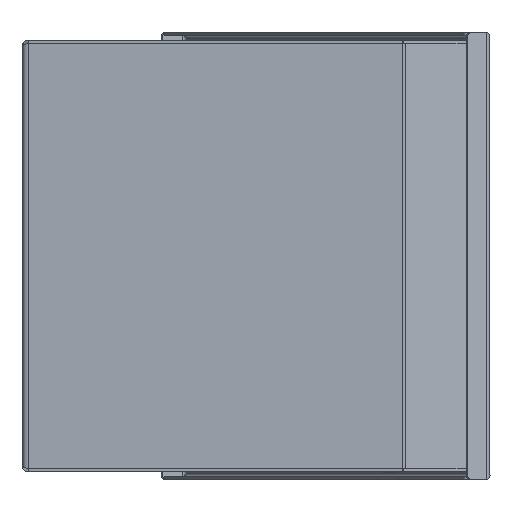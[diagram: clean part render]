
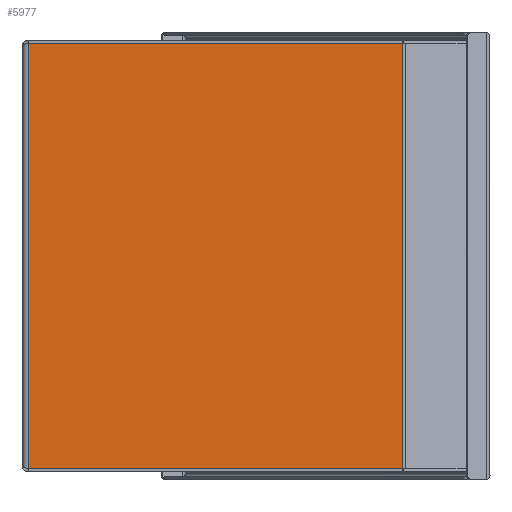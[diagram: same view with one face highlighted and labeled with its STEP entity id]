
A CAD part, left-side view. The second image highlights one B-rep face of the part: STEP entity #5977.
In plain terms, the highlighted planar face has unit normal (-1, 0, 0).
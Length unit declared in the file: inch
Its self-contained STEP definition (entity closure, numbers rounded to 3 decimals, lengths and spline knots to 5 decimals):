
#440=DIRECTION('',(0.,0.,1.));
#441=VECTOR('',#440,8.38);
#442=CARTESIAN_POINT('',(-5.345,2.3803,-4.19));
#443=LINE('',#442,#441);
#1172=DIRECTION('',(0.,-1.,0.));
#1173=VECTOR('',#1172,7.36466);
#1174=CARTESIAN_POINT('',(-5.345,2.3803,-4.19));
#1175=LINE('',#1174,#1173);
#1193=DIRECTION('',(0.,1.,0.));
#1194=VECTOR('',#1193,7.36466);
#1195=CARTESIAN_POINT('',(-5.345,-4.98436,4.19));
#1196=LINE('',#1195,#1194);
#1710=DIRECTION('',(0.,0.,-1.));
#1711=VECTOR('',#1710,8.38);
#1712=CARTESIAN_POINT('',(-5.345,-4.98436,4.19));
#1713=LINE('',#1712,#1711);
#4147=CARTESIAN_POINT('',(-5.345,2.3803,-4.19));
#4148=CARTESIAN_POINT('',(-5.345,2.3803,4.19));
#4149=VERTEX_POINT('',#4147);
#4150=VERTEX_POINT('',#4148);
#4227=CARTESIAN_POINT('',(-5.345,-4.98436,4.19));
#4228=VERTEX_POINT('',#4227);
#4229=CARTESIAN_POINT('',(-5.345,-4.98436,-4.19));
#4230=VERTEX_POINT('',#4229);
#5964=CARTESIAN_POINT('',(-5.345,2.5003,-4.25));
#5965=DIRECTION('',(-1.,0.,0.));
#5966=DIRECTION('',(0.,-1.,0.));
#5967=AXIS2_PLACEMENT_3D('',#5964,#5965,#5966);
#5968=PLANE('',#5967);
#5970=ORIENTED_EDGE('',*,*,#5969,.F.);
#5972=ORIENTED_EDGE('',*,*,#5971,.T.);
#5973=ORIENTED_EDGE('',*,*,#5955,.F.);
#5974=ORIENTED_EDGE('',*,*,#5296,.T.);
#5975=EDGE_LOOP('',(#5970,#5972,#5973,#5974));
#5976=FACE_OUTER_BOUND('',#5975,.F.);
#5296=EDGE_CURVE('',#4149,#4150,#443,.T.);
#5955=EDGE_CURVE('',#4149,#4230,#1175,.T.);
#5969=EDGE_CURVE('',#4228,#4150,#1196,.T.);
#5971=EDGE_CURVE('',#4228,#4230,#1713,.T.);
#5977=ADVANCED_FACE('',(#5976),#5968,.T.);
